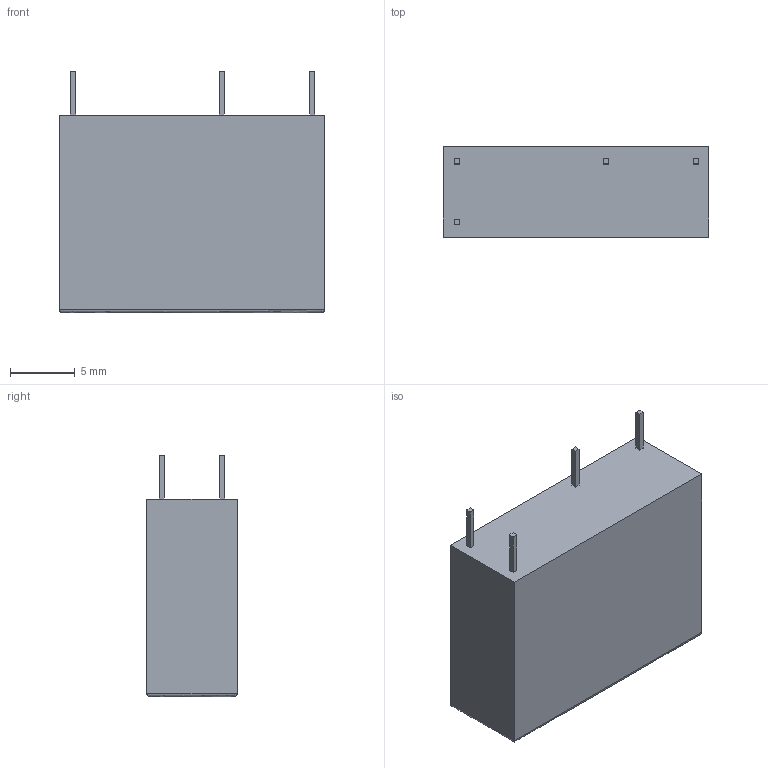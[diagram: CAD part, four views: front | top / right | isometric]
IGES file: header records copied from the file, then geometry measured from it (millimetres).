
Global section: file name: Filename.iges; native system: Open CASCADE 7.3; preprocessor: Open CASCADE IGES processor 7.3; date: 20210716.133325; units: millimetre
Bounding box: 20.5 x 7 x 18.7 mm (x, y, z)
Surface area: 1144.4 mm2 (no closed solid volume)
Topology: 0 solids, 0 shells, 34 faces, 136 edges, 136 vertices
Faces by surface type: plane 30, revolution 4
